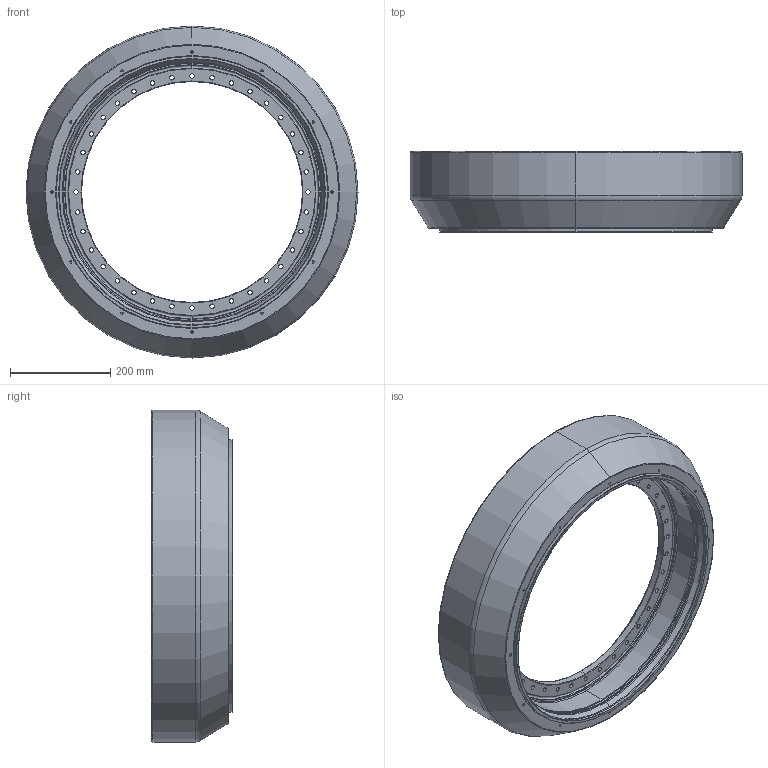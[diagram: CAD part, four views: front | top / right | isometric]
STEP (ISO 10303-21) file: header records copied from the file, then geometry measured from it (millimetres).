
FILE_DESCRIPTION(('CATIA V5 STEP Exchange','CAx-IF Rec.Pracs.--- Composite Materials ---3.4---2017-06-13'),'2;1');
FILE_NAME('C:\Users\PM610867\AppData\Local\ST-WORK_R32_PROD\Liasse-PDF\IEM_PEPSI_CEG_DEF_K_1229_216-CONE_EXTER_TUBE_INTERM_COTE_ELECTRODE_MOBILE-A.stp','2025-03-31T12:19:47+00:00',('none'),('none'),'CATIA Version 5-6 Release 2022 SP2','CATIA V5 STEP AP203 v2','none');
FILE_SCHEMA(('CONFIG_CONTROL_DESIGN'));
Length unit declared in the file: millimetre
Products named in the file (1): IEM PEPSI CEG DEF K 1229 216
Bounding box: 664 x 162 x 664 mm (x, y, z)
Volume: 7850641.6 mm3; surface area: 1130907 mm2
Topology: 1 solids, 1 shells, 254 faces, 630 edges, 357 vertices
Faces by surface type: cylinder 140, cone 62, torus 46, plane 6
Entity records: 6431 total; most frequent: ORIENTED_EDGE 1160, CARTESIAN_POINT 1066, DIRECTION 836, EDGE_CURVE 580, AXIS2_PLACEMENT_3D 507, CIRCLE 378, EDGE_LOOP 357, VERTEX_POINT 357
